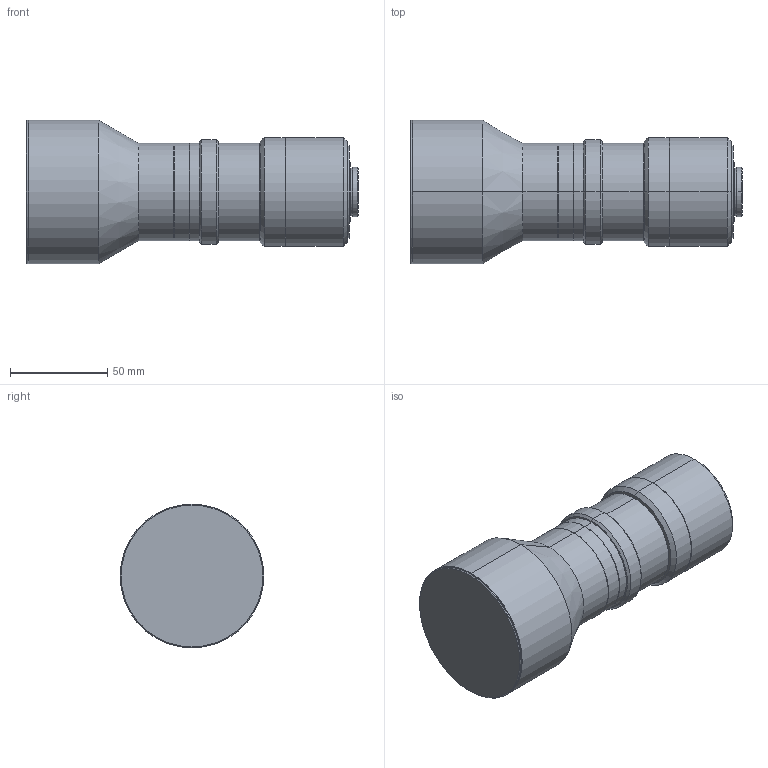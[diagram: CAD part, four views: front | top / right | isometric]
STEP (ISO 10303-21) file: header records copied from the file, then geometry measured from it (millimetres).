
FILE_DESCRIPTION (( 'STEP AP203' ), '1' );
FILE_NAME ('VS-TCM04-100_S.STEP', '2017-03-28T05:10:10', ( 'miura_vst' ), ( '' ), 'SwSTEP 2.0', 'SolidWorks 2017', '' );
FILE_SCHEMA (( 'CONFIG_CONTROL_DESIGN' ));
Length unit declared in the file: millimetre
Products named in the file (1): VS-TCM04-100_S
Bounding box: 170.9 x 74 x 74 mm (x, y, z)
Volume: 463490.5 mm3; surface area: 39275.9 mm2
Topology: 1 solids, 1 shells, 73 faces, 144 edges, 80 vertices
Faces by surface type: cone 38, cylinder 26, plane 9
Entity records: 1931 total; most frequent: DIRECTION 372, CARTESIAN_POINT 298, ORIENTED_EDGE 288, AXIS2_PLACEMENT_3D 154, EDGE_CURVE 144, EDGE_LOOP 80, CIRCLE 80, VERTEX_POINT 80
